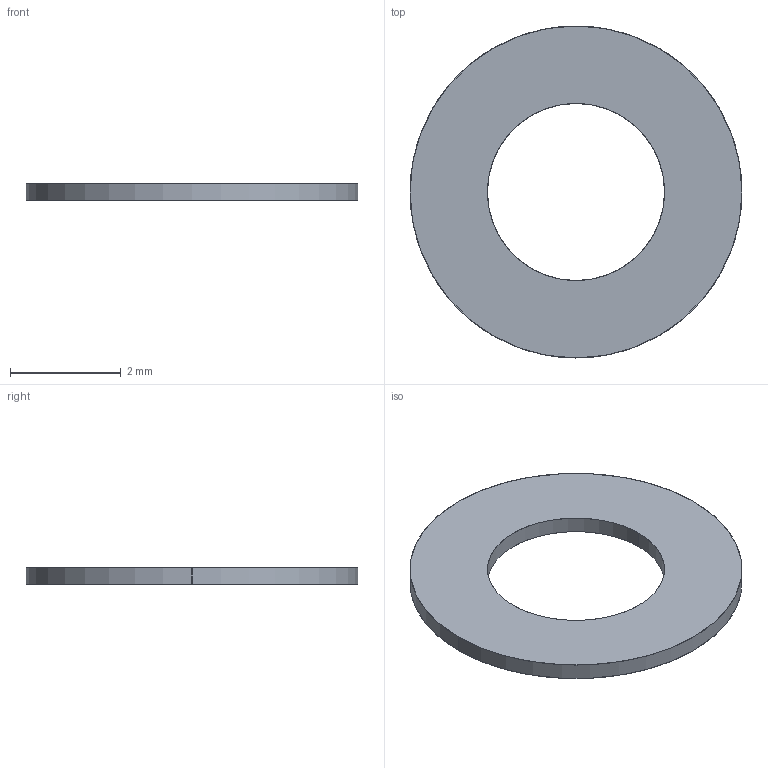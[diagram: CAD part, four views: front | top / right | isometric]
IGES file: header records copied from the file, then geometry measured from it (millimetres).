
Start section: SolidWorks IGES file using analytic representation for surfaces
Bounding box: 6 x 6 x 0.3 mm (x, y, z)
Surface area: 49.1 mm2 (no closed solid volume)
Topology: 0 solids, 0 shells, 6 faces, 144 edges, 144 vertices
Faces by surface type: revolution 4, bspline 2
